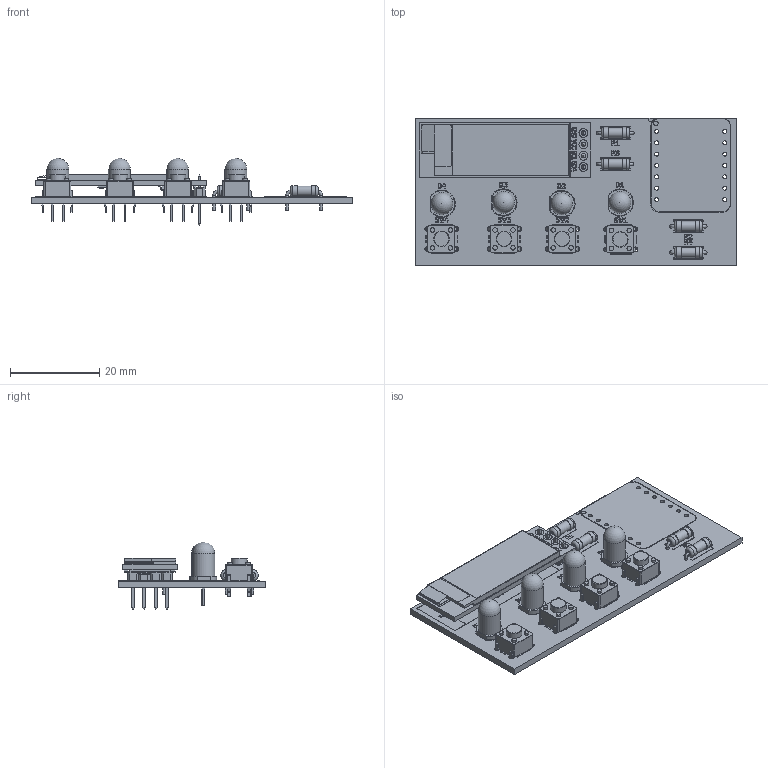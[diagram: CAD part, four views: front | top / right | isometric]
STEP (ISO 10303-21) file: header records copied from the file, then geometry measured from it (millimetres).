
FILE_DESCRIPTION(('KiCad electronic assembly'),'2;1');
FILE_NAME('Button-Blitz.step','2025-07-02T17:58:40',('Pcbnew'),('Kicad') ,'Open CASCADE STEP processor 7.8','KiCad to STEP converter','Unknown' );
FILE_SCHEMA(('AUTOMOTIVE_DESIGN { 1 0 10303 214 1 1 1 1 }'));
Length unit declared in the file: millimetre
Products named in the file (12): Button-Blitz 1; R_Axial_DIN0207_L6.3mm_D2.5mm_P7.62mm_Horizontal; OLED_0.91_128x32; Pin Header 4 x 1 TH 2.54mm Pitch; RESC-0603; 2SD0601A; LED_D5.0mm; SW_PUSH_6mm_H5mm; Button-Blitz_silkscreen; Button-Blitz_PCB; Button-Blitz 2
Assembly tree (31 placements, depth 3):
  Button-Blitz 1
    R_Axial_DIN0207_L6.3mm_D2.5mm_P7.62mm_Horizontal  x4
    OLED_0.91_128x32
      OLED_0.91_128x32
      Pin Header 4 x 1 TH 2.54mm Pitch
      RESC-0603  x13
      2SD0601A
    LED_D5.0mm  x4
    SW_PUSH_6mm_H5mm  x4
    Button-Blitz_silkscreen
    Button-Blitz_PCB
  Button-Blitz 2
Bounding box: 72 x 33 x 15.05 mm (x, y, z)
Volume: 5936.9 mm3; surface area: 8956.8 mm2
Topology: 65 solids, 143 shells, 1815 faces, 5713 edges, 4176 vertices
Faces by surface type: plane 1248, cylinder 433, bspline 110, torus 20, sphere 4
Full cylindrical faces by diameter (mm): 0.6 x8, 0.8 x8, 0.889 x14, 0.9 x8, 1 x24, 1.1 x16, 2 x8, 2.25 x4, 2.5 x8, 3.5 x4, 4.9 x4
Entity records: 37479 total; most frequent: CARTESIAN_POINT 8160, DIRECTION 4913, ORIENTED_EDGE 4904, EDGE_CURVE 3099, VERTEX_POINT 2472, LINE 2227, VECTOR 2227, AXIS2_PLACEMENT_3D 1343
